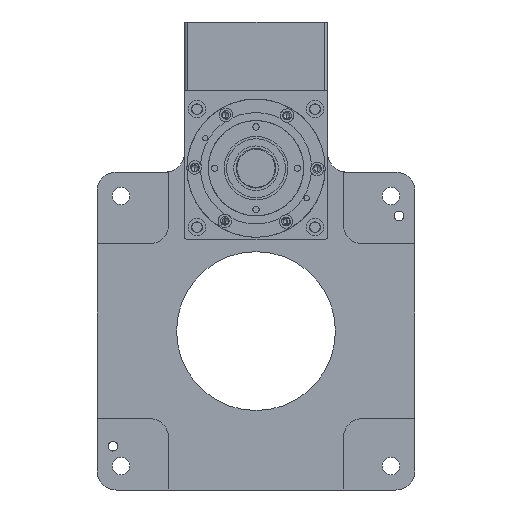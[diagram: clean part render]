
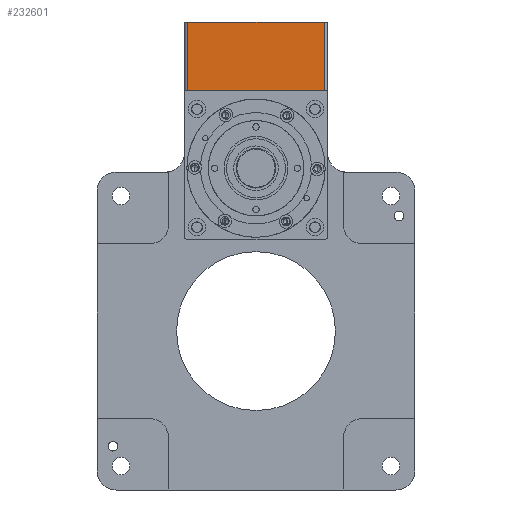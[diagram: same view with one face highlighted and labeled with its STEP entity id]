
A CAD part, front view. The second image highlights one B-rep face of the part: STEP entity #232601.
In plain terms, the highlighted planar face has unit normal (0, -1, 0) as drawn and (1, 0, 0) by its records, which use the part's own axes.
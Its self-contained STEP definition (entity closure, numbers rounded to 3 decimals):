
#228417 = PLANE('',#228418);
#228418 = AXIS2_PLACEMENT_3D('',#228419,#228420,#228421);
#228419 = CARTESIAN_POINT('',(-74.779,64.004,90.));
#228420 = DIRECTION('',(-0.,0.,-1.));
#228421 = DIRECTION('',(-0.,-1.,0.));
#229274 = PLANE('',#229275);
#229275 = AXIS2_PLACEMENT_3D('',#229276,#229277,#229278);
#229276 = CARTESIAN_POINT('',(-74.779,64.004,47.));
#229277 = DIRECTION('',(-0.,0.,-1.));
#229278 = DIRECTION('',(-0.,-1.,0.));
#231838 = VERTEX_POINT('',#231839);
#231839 = CARTESIAN_POINT('',(15.221,62.004,47.));
#231854 = CYLINDRICAL_SURFACE('',#231855,2.);
#231855 = AXIS2_PLACEMENT_3D('',#231856,#231857,#231858);
#231856 = CARTESIAN_POINT('',(13.221,62.004,90.));
#231857 = DIRECTION('',(0.,0.,-1.));
#231858 = DIRECTION('',(0.,-1.,0.));
#231866 = EDGE_CURVE('',#231838,#231867,#231869,.T.);
#231867 = VERTEX_POINT('',#231868);
#231868 = CARTESIAN_POINT('',(15.221,-23.996,47.));
#231869 = SURFACE_CURVE('',#231870,(#231874,#231881),.PCURVE_S1.);
#231870 = LINE('',#231871,#231872);
#231871 = CARTESIAN_POINT('',(15.221,64.004,47.));
#231872 = VECTOR('',#231873,1.);
#231873 = DIRECTION('',(-0.,-1.,0.));
#231874 = PCURVE('',#229274,#231875);
#231875 = DEFINITIONAL_REPRESENTATION('',(#231876),#231880);
#231876 = LINE('',#231877,#231878);
#231877 = CARTESIAN_POINT('',(0.,-90.));
#231878 = VECTOR('',#231879,1.);
#231879 = DIRECTION('',(1.,0.));
#231880 = ( GEOMETRIC_REPRESENTATION_CONTEXT(2) 
PARAMETRIC_REPRESENTATION_CONTEXT() REPRESENTATION_CONTEXT('2D SPACE',''
  ) );
#231881 = PCURVE('',#231882,#231887);
#231882 = PLANE('',#231883);
#231883 = AXIS2_PLACEMENT_3D('',#231884,#231885,#231886);
#231884 = CARTESIAN_POINT('',(15.221,-25.996,90.));
#231885 = DIRECTION('',(-1.,0.,0.));
#231886 = DIRECTION('',(0.,0.,1.));
#231887 = DEFINITIONAL_REPRESENTATION('',(#231888),#231892);
#231888 = LINE('',#231889,#231890);
#231889 = CARTESIAN_POINT('',(-43.,90.));
#231890 = VECTOR('',#231891,1.);
#231891 = DIRECTION('',(0.,-1.));
#231892 = ( GEOMETRIC_REPRESENTATION_CONTEXT(2) 
PARAMETRIC_REPRESENTATION_CONTEXT() REPRESENTATION_CONTEXT('2D SPACE',''
  ) );
#231911 = CYLINDRICAL_SURFACE('',#231912,2.);
#231912 = AXIS2_PLACEMENT_3D('',#231913,#231914,#231915);
#231913 = CARTESIAN_POINT('',(13.221,-23.996,90.));
#231914 = DIRECTION('',(0.,0.,-1.));
#231915 = DIRECTION('',(0.,-1.,0.));
#232203 = VERTEX_POINT('',#232204);
#232204 = CARTESIAN_POINT('',(15.221,62.004,90.));
#232226 = EDGE_CURVE('',#232203,#231838,#232227,.T.);
#232227 = SURFACE_CURVE('',#232228,(#232232,#232239),.PCURVE_S1.);
#232228 = LINE('',#232229,#232230);
#232229 = CARTESIAN_POINT('',(15.221,62.004,90.));
#232230 = VECTOR('',#232231,1.);
#232231 = DIRECTION('',(0.,0.,-1.));
#232232 = PCURVE('',#231854,#232233);
#232233 = DEFINITIONAL_REPRESENTATION('',(#232234),#232238);
#232234 = LINE('',#232235,#232236);
#232235 = CARTESIAN_POINT('',(4.712,0.));
#232236 = VECTOR('',#232237,1.);
#232237 = DIRECTION('',(0.,1.));
#232238 = ( GEOMETRIC_REPRESENTATION_CONTEXT(2) 
PARAMETRIC_REPRESENTATION_CONTEXT() REPRESENTATION_CONTEXT('2D SPACE',''
  ) );
#232239 = PCURVE('',#231882,#232240);
#232240 = DEFINITIONAL_REPRESENTATION('',(#232241),#232245);
#232241 = LINE('',#232242,#232243);
#232242 = CARTESIAN_POINT('',(0.,88.));
#232243 = VECTOR('',#232244,1.);
#232244 = DIRECTION('',(-1.,0.));
#232245 = ( GEOMETRIC_REPRESENTATION_CONTEXT(2) 
PARAMETRIC_REPRESENTATION_CONTEXT() REPRESENTATION_CONTEXT('2D SPACE',''
  ) );
#232556 = EDGE_CURVE('',#231867,#232557,#232559,.T.);
#232557 = VERTEX_POINT('',#232558);
#232558 = CARTESIAN_POINT('',(15.221,-23.996,90.));
#232559 = SURFACE_CURVE('',#232560,(#232564,#232571),.PCURVE_S1.);
#232560 = LINE('',#232561,#232562);
#232561 = CARTESIAN_POINT('',(15.221,-23.996,90.));
#232562 = VECTOR('',#232563,1.);
#232563 = DIRECTION('',(-0.,-0.,1.));
#232564 = PCURVE('',#231911,#232565);
#232565 = DEFINITIONAL_REPRESENTATION('',(#232566),#232570);
#232566 = LINE('',#232567,#232568);
#232567 = CARTESIAN_POINT('',(4.712,0.));
#232568 = VECTOR('',#232569,1.);
#232569 = DIRECTION('',(0.,-1.));
#232570 = ( GEOMETRIC_REPRESENTATION_CONTEXT(2) 
PARAMETRIC_REPRESENTATION_CONTEXT() REPRESENTATION_CONTEXT('2D SPACE',''
  ) );
#232571 = PCURVE('',#231882,#232572);
#232572 = DEFINITIONAL_REPRESENTATION('',(#232573),#232577);
#232573 = LINE('',#232574,#232575);
#232574 = CARTESIAN_POINT('',(0.,2.));
#232575 = VECTOR('',#232576,1.);
#232576 = DIRECTION('',(1.,0.));
#232577 = ( GEOMETRIC_REPRESENTATION_CONTEXT(2) 
PARAMETRIC_REPRESENTATION_CONTEXT() REPRESENTATION_CONTEXT('2D SPACE',''
  ) );
#232601 = ADVANCED_FACE('',(#232602),#231882,.F.);
#232602 = FACE_BOUND('',#232603,.T.);
#232603 = EDGE_LOOP('',(#232604,#232605,#232606,#232607));
#232604 = ORIENTED_EDGE('',*,*,#232556,.F.);
#232605 = ORIENTED_EDGE('',*,*,#231866,.F.);
#232606 = ORIENTED_EDGE('',*,*,#232226,.F.);
#232607 = ORIENTED_EDGE('',*,*,#232608,.F.);
#232608 = EDGE_CURVE('',#232557,#232203,#232609,.T.);
#232609 = SURFACE_CURVE('',#232610,(#232614,#232621),.PCURVE_S1.);
#232610 = LINE('',#232611,#232612);
#232611 = CARTESIAN_POINT('',(15.221,-25.996,90.));
#232612 = VECTOR('',#232613,1.);
#232613 = DIRECTION('',(0.,1.,0.));
#232614 = PCURVE('',#231882,#232615);
#232615 = DEFINITIONAL_REPRESENTATION('',(#232616),#232620);
#232616 = LINE('',#232617,#232618);
#232617 = CARTESIAN_POINT('',(0.,0.));
#232618 = VECTOR('',#232619,1.);
#232619 = DIRECTION('',(0.,1.));
#232620 = ( GEOMETRIC_REPRESENTATION_CONTEXT(2) 
PARAMETRIC_REPRESENTATION_CONTEXT() REPRESENTATION_CONTEXT('2D SPACE',''
  ) );
#232621 = PCURVE('',#228417,#232622);
#232622 = DEFINITIONAL_REPRESENTATION('',(#232623),#232627);
#232623 = LINE('',#232624,#232625);
#232624 = CARTESIAN_POINT('',(90.,-90.));
#232625 = VECTOR('',#232626,1.);
#232626 = DIRECTION('',(-1.,0.));
#232627 = ( GEOMETRIC_REPRESENTATION_CONTEXT(2) 
PARAMETRIC_REPRESENTATION_CONTEXT() REPRESENTATION_CONTEXT('2D SPACE',''
  ) );
